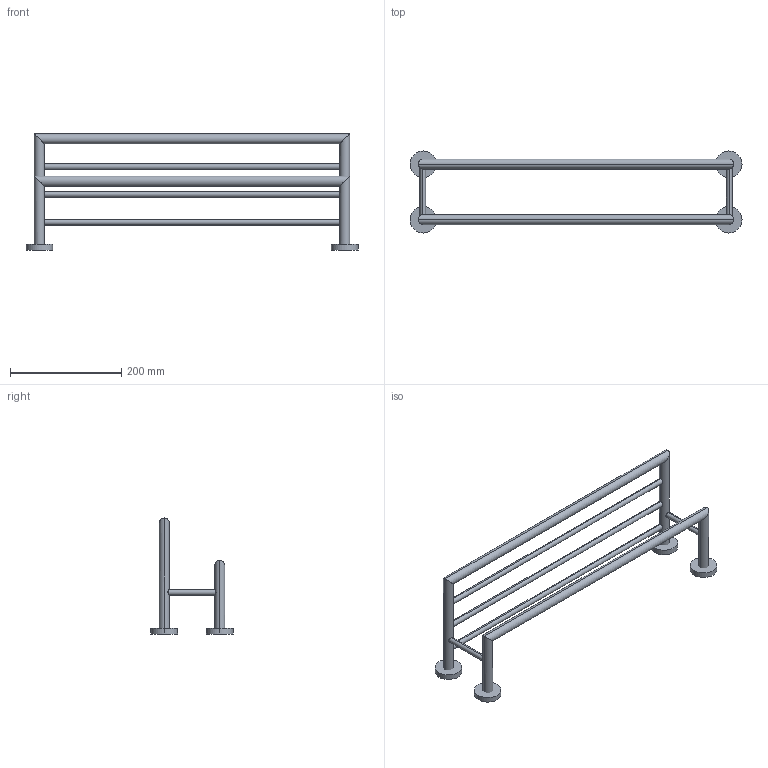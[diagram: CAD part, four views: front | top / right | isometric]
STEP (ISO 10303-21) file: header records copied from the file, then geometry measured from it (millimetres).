
FILE_DESCRIPTION(('FreeCAD Model'),'2;1');
FILE_NAME('Open CASCADE Shape Model','2024-08-10T19:07:32',('Author'),( ''),'Open CASCADE STEP processor 7.6','FreeCAD','Unknown');
FILE_SCHEMA(('AUTOMOTIVE_DESIGN { 1 0 10303 214 1 1 1 1 }'));
Length unit declared in the file: millimetre
Products named in the file (11): TopLevelAssembly; Wyciąganie003; Wyciąganie001; Wyciąganie002; Wyciąganie006; Wyciąganie004; Wyciąganie005; Wyciągnięcie po ścieżce; Wyciągnięcie po ścieżce001; Wyciągnięcie po ścieżce002; Połączona geometria bryłowa
Assembly tree (10 placements, depth 3):
  TopLevelAssembly
    Wyciąganie003
      Wyciąganie001
      Wyciąganie002
    Wyciąganie006
      Wyciąganie004
      Wyciąganie005
    Wyciągnięcie po ścieżce
    Wyciągnięcie po ścieżce001
    Wyciągnięcie po ścieżce002
    Połączona geometria bryłowa
Bounding box: 598 x 148 x 209 mm (x, y, z)
Volume: 655557.3 mm3; surface area: 175908.1 mm2
Topology: 8 solids, 8 shells, 48 faces, 90 edges, 60 vertices
Faces by surface type: cylinder 30, plane 18
Entity records: 1612 total; most frequent: CARTESIAN_POINT 349, DIRECTION 252, ORIENTED_EDGE 180, AXIS2_PLACEMENT_3D 111, EDGE_CURVE 90, VERTEX_POINT 60, FACE_BOUND 52, EDGE_LOOP 52
